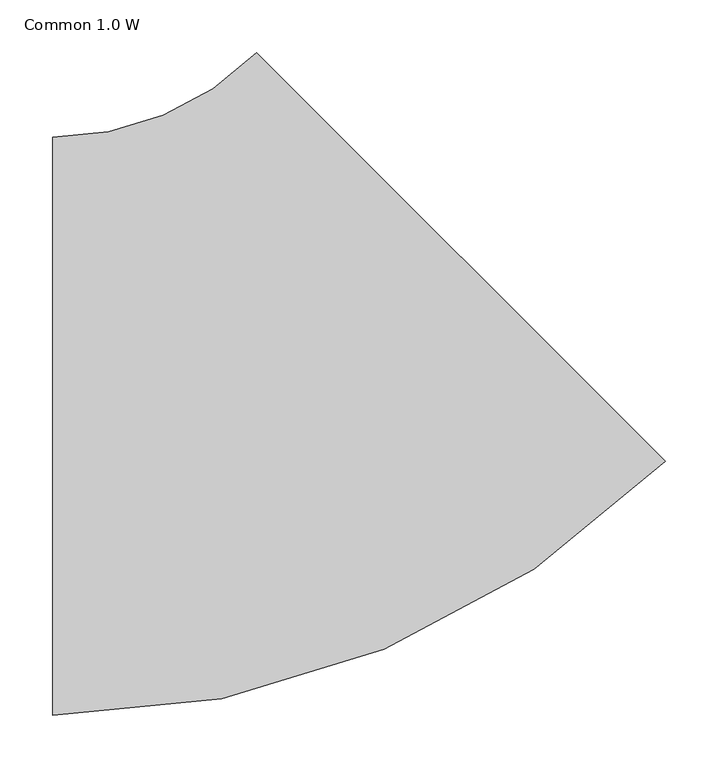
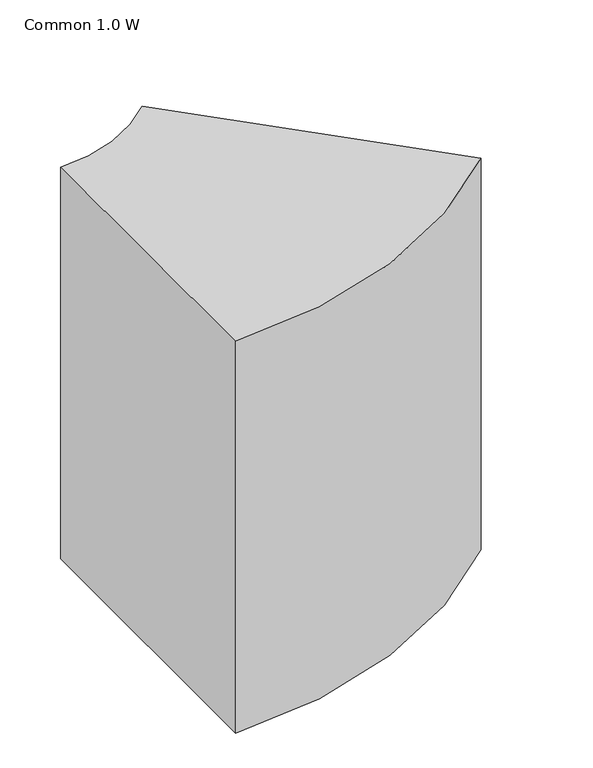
"""IFC4 building model written with IfcOpenShell, lengths in millimetres: duct fitting geometry, 011_角型エルボ - 半径 : Common 1.0 W."""

from ifc_helpers import new_model, si_unit, point, frame, frame_2d, origin, place, context, project, spatial, polyline, circle_curve, trimmed, segment, composite_curve, outline, extrude, source, transform, mapped, element, save


def common_1_0_w_32f171b4(model_context):
    return source(origin(), model_context, "Body", "SweptSolid", [
        extrude(outline(composite_curve([segment(trimmed(circle_curve(frame_2d((-227.8174593, 550.0)), 825.0), [point((355.5456352, -33.3630945))], [point((-227.8174593, -275.0))], False, "CARTESIAN"), True, "CONTINUOUS"), segment(polyline([(-227.8174593, -275.0), (-227.8174593, 275.0)]), True, "CONTINUOUS"), segment(trimmed(circle_curve(frame_2d((-227.8174593, 550.0)), 275.0), [point((-227.8174593, 275.0))], [point((-33.3630945, 355.5456352))], True, "CARTESIAN"), True, "CONTINUOUS"), segment(polyline([(-33.3630945, 355.5456352), (355.5456352, -33.3630945)]), True, "CONTINUOUS")], self_intersect=False)), frame((0.0, 0.0, -375.0), z_axis=(0.0, 0.0, 1.0), x_axis=(1.0, 0.0, 0.0)), (0.0, 0.0, 1.0), 750.0),
    ])


if __name__ == "__main__":
    model = new_model("IFC4")
    model_context = context("Model", 3, world=origin())
    ifc_project = project(units=[si_unit("LENGTHUNIT", "METRE", prefix="MILLI")], contexts=[model_context])
    site = spatial("IfcSite", under=ifc_project)
    building = spatial("IfcBuilding", under=site)
    placement = place(None, origin())
    common_1_0_w_shape = common_1_0_w_32f171b4(model_context)
    element("IfcDuctFitting", 1, ObjectType="011_角型エルボ - 半径 : Common 1.0 W", at=placement, inside=building, context=model_context, shape_type="MappedRepresentation", body=[
        mapped(common_1_0_w_shape, transform((0.0, 0.0, 0.0), x_axis=(1.0, 0.0, 0.0), y_axis=(0.0, 1.0, 0.0), z_axis=(0.0, 0.0, 1.0))),
    ])
    save(model, "model.ifc")
